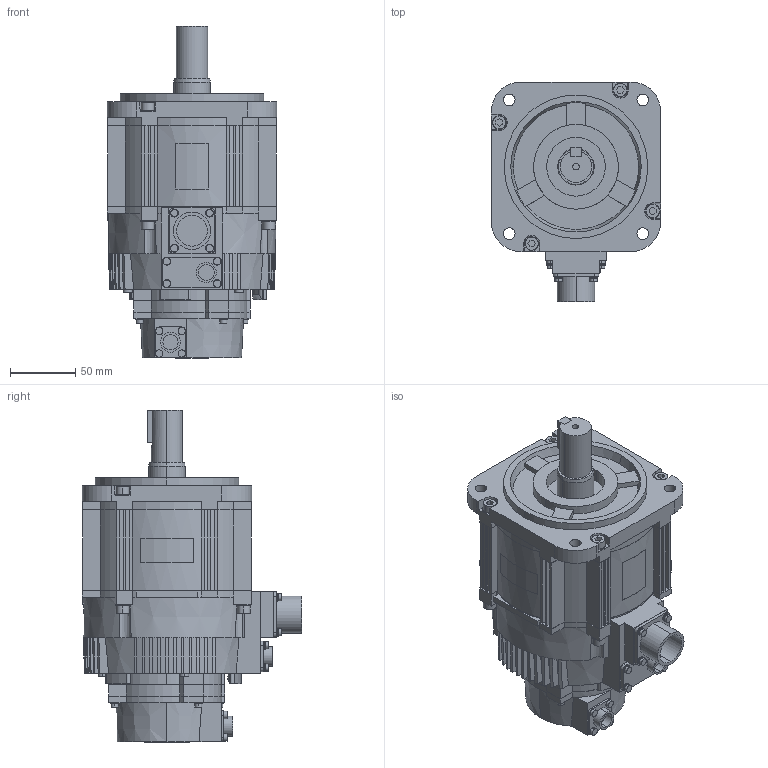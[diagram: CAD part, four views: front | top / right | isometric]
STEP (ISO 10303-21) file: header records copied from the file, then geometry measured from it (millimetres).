
FILE_DESCRIPTION (( 'STEP AP203' ), '1' );
FILE_NAME ('sgm7g_13a6a6c.STEP', '2016-11-12T04:51:00', ( '匠エンジニアリング山之内' ), ( 'TAKUMI-Engniaring' ), 'SwSTEP 2.0', 'SolidWorks 2006303', '' );
FILE_SCHEMA (( 'CONFIG_CONTROL_DESIGN' ));
Length unit declared in the file: millimetre
Products named in the file (3): sgm7g_13a6a6c; sgm7g_13a6a6c_base; sgm7g_13a6a6c_key
Assembly tree (2 placements, depth 2):
  sgm7g_13a6a6c
    sgm7g_13a6a6c_key
    sgm7g_13a6a6c_base
Bounding box: 130 x 168.49 x 254.6 mm (x, y, z)
Volume: 2305720.4 mm3; surface area: 170865 mm2
Topology: 2 solids, 2 shells, 942 faces, 2398 edges, 1557 vertices
Faces by surface type: plane 589, cylinder 253, cone 100
Entity records: 29352 total; most frequent: CARTESIAN_POINT 5871, DIRECTION 4891, ORIENTED_EDGE 4796, EDGE_CURVE 2398, AXIS2_PLACEMENT_3D 1725, VERTEX_POINT 1557, VECTOR 1441, LINE 1441
